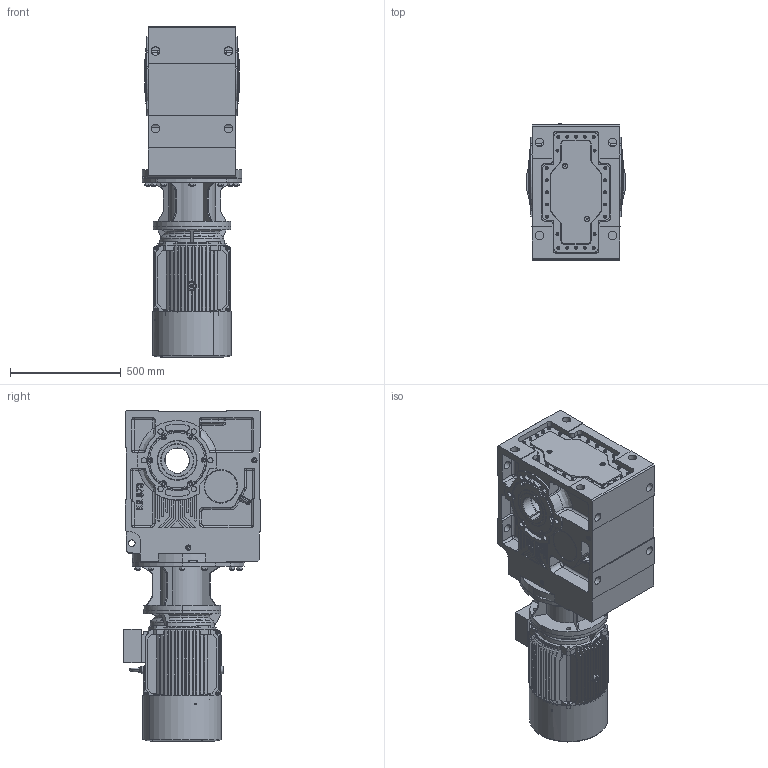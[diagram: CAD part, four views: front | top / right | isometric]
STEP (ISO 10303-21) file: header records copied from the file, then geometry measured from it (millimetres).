
FILE_DESCRIPTION (( 'STEP AP203' ), '1' );
FILE_NAME ('KV_873_0_M3-180M-4.STEP', '2019-07-18T08:53:56', ( '' ), ( '' ), 'SwSTEP 2.0', 'SolidWorks 2012', '' );
FILE_SCHEMA (( 'CONFIG_CONTROL_DESIGN' ));
Products named in the file (12): KV_873_0_M3-180M-4; Y2-180-4.6.8+ª-¯ª­-È®+_-++ñ; M3-180M-FF-B5; Y2-180-4.6.8-ª+---®+_-++ñ; Eyebolts GB_GB_FASTENER_SCREWS_FRS M12_1; Y2-180+¦i-_-++ñ; Y2-180MB5+À+¿_-++ñ; Y2-180C++A+¦-¯ª¦+¦_-++ñ; ML23A_Varsayìlan; 83A180B5_Varsayìlan; KN_87_3_0_A-B18_B5_ML23A_0_0_0_0_0_0_0_0_0_0_0_0_M1; K873_Varsayìlan
Assembly tree (11 placements, depth 3):
  KV_873_0_M3-180M-4
    KN_87_3_0_A-B18_B5_ML23A_0_0_0_0_0_0_0_0_0_0_0_0_M1
      K873_Varsayìlan
      83A180B5_Varsayìlan
      ML23A_Varsayìlan
    M3-180M-FF-B5
      Y2-180C++A+¦-¯ª¦+¦_-++ñ
      Y2-180+¦i-_-++ñ
      Y2-180-4.6.8-ª+---®+_-++ñ
      Eyebolts GB_GB_FASTENER_SCREWS_FRS M12_1
      Y2-180MB5+À+¿_-++ñ
      Y2-180-4.6.8+ª-¯ª­-È®+_-++ñ
Bounding box: 450 x 616.05 x 1496.5 mm (x, y, z)
Volume: 24771452.9 mm3; surface area: 6774917.1 mm2
Topology: 9 solids, 56 shells, 3260 faces, 8302 edges, 5260 vertices
Faces by surface type: plane 1471, cylinder 911, cone 528, bspline 314, torus 36
Entity records: 118640 total; most frequent: CARTESIAN_POINT 40013, ORIENTED_EDGE 16388, DIRECTION 15892, EDGE_CURVE 8214, AXIS2_PLACEMENT_3D 5845, VERTEX_POINT 5253, LINE 4202, VECTOR 4202
